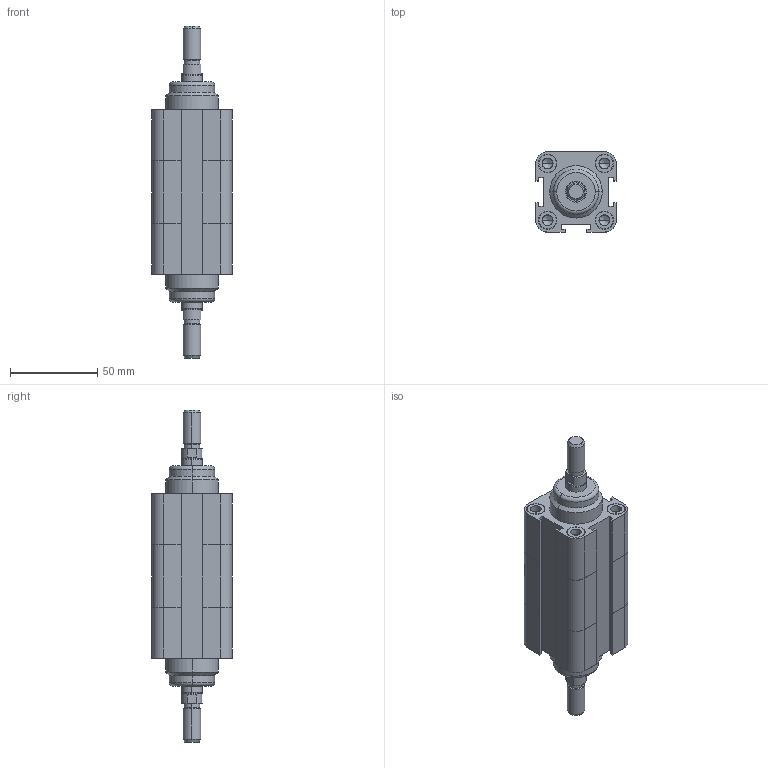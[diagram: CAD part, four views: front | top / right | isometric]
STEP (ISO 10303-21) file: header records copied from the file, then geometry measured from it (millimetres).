
FILE_DESCRIPTION((''),'2;1');
FILE_NAME('F:\Lib-3d\1380\CIL\1380_32_0000_02.stp','2004-01-07T15:54:09',('maffial1'),(''),'Autodesk Inventor 8','Autodesk Inventor 8','');
FILE_SCHEMA(('AUTOMOTIVE_DESIGN { 1 0 10303 214 1 1 1 1 }'));
Length unit declared in the file: millimetre
Products named in the file (3): 1380_32_0000_02; CPP04_32_0; CPP03_32_0
Assembly tree (2 placements, depth 2):
  1380_32_0000_02
    CPP04_32_0
    CPP03_32_0
Bounding box: 46 x 46 x 190 mm (x, y, z)
Volume: 195499.5 mm3; surface area: 44251.1 mm2
Topology: 2 solids, 2 shells, 236 faces, 564 edges, 356 vertices
Faces by surface type: plane 80, cylinder 66, bspline 62, cone 24, torus 4
Entity records: 7513 total; most frequent: CARTESIAN_POINT 2031, DIRECTION 1154, ORIENTED_EDGE 1096, EDGE_CURVE 548, AXIS2_PLACEMENT_3D 427, VERTEX_POINT 356, VECTOR 300, LINE 300
